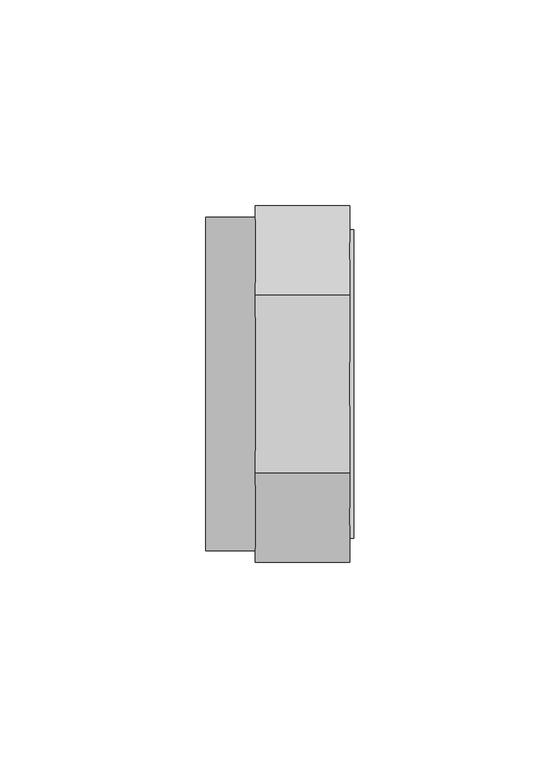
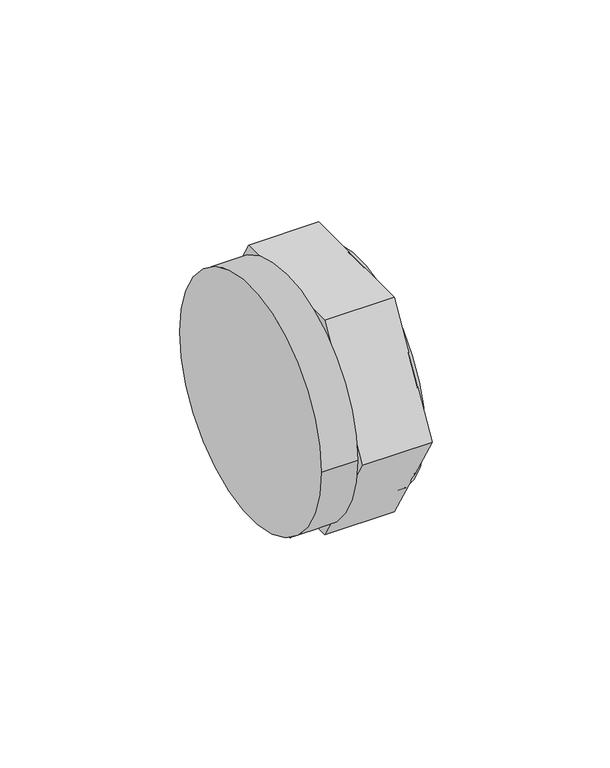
"""IFC4 building model written with IfcOpenShell, lengths in millimetres: pipe fitting geometry, 01011012 : Tampão F."""

from ifc_helpers import new_model, si_unit, point, frame, origin, origin_2d, place, context, project, spatial, polyline, circle_curve, trimmed, segment, composite_curve, outline, extrude, source, transform, mapped, element, save


def pipe_fitting_99d6bd3f(model_context):
    return source(origin(), model_context, "Body", "SweptSolid", [
        extrude(outline(composite_curve([segment(trimmed(circle_curve(origin_2d(), 37.5), [point((-37.5, 0.0))], [point((37.5, 0.0))], False, "CARTESIAN"), True, "CONTINUOUS"), segment(trimmed(circle_curve(origin_2d(), 37.5), [point((37.5, 0.0))], [point((-37.5, 0.0))], False, "CARTESIAN"), True, "CONTINUOUS")], self_intersect=False)), frame((35.0, 0.0, 0.0), z_axis=(1.0, 0.0, 0.0), x_axis=(0.0, 1.0, 0.0)), (0.0, 0.0, 1.0), 1.0),
        extrude(outline(composite_curve([segment(trimmed(circle_curve(origin_2d(), 40.5), [point((-40.5, 0.0))], [point((40.5, 0.0))], False, "CARTESIAN"), True, "CONTINUOUS"), segment(trimmed(circle_curve(origin_2d(), 40.5), [point((40.5, 0.0))], [point((-40.5, 0.0))], False, "CARTESIAN"), True, "CONTINUOUS")], self_intersect=False)), frame((0.0, 0.0, 0.0), z_axis=(1.0, 0.0, 0.0), x_axis=(0.0, 1.0, 0.0)), (0.0, 0.0, 1.0), 12.0),
        extrude(outline(polyline([(-21.6506351, 37.5), (21.6506351, 37.5), (43.3012702, 0.0), (21.6506351, -37.5), (-21.6506351, -37.5), (-43.3012702, 0.0), (-21.6506351, 37.5)])), frame((12.0, 0.0, 0.0), z_axis=(1.0, 0.0, 0.0), x_axis=(0.0, 1.0, 0.0)), (0.0, 0.0, 1.0), 23.0),
    ])


if __name__ == "__main__":
    model = new_model("IFC4")
    model_context = context("Model", 3, world=origin())
    ifc_project = project(units=[si_unit("LENGTHUNIT", "METRE", prefix="MILLI")], contexts=[model_context])
    site = spatial("IfcSite", under=ifc_project)
    building = spatial("IfcBuilding", under=site)
    placement = place(None, origin())
    pipe_fitting_shape = pipe_fitting_99d6bd3f(model_context)
    element("IfcPipeFitting", 1, ObjectType="01011012 : Tampão F", at=placement, inside=building, context=model_context, shape_type="MappedRepresentation", body=[
        mapped(pipe_fitting_shape, transform((0.0, 0.0, 0.0), x_axis=(1.0, 0.0, 0.0), y_axis=(0.0, 1.0, 0.0), z_axis=(0.0, 0.0, 1.0))),
    ])
    save(model, "model.ifc")
